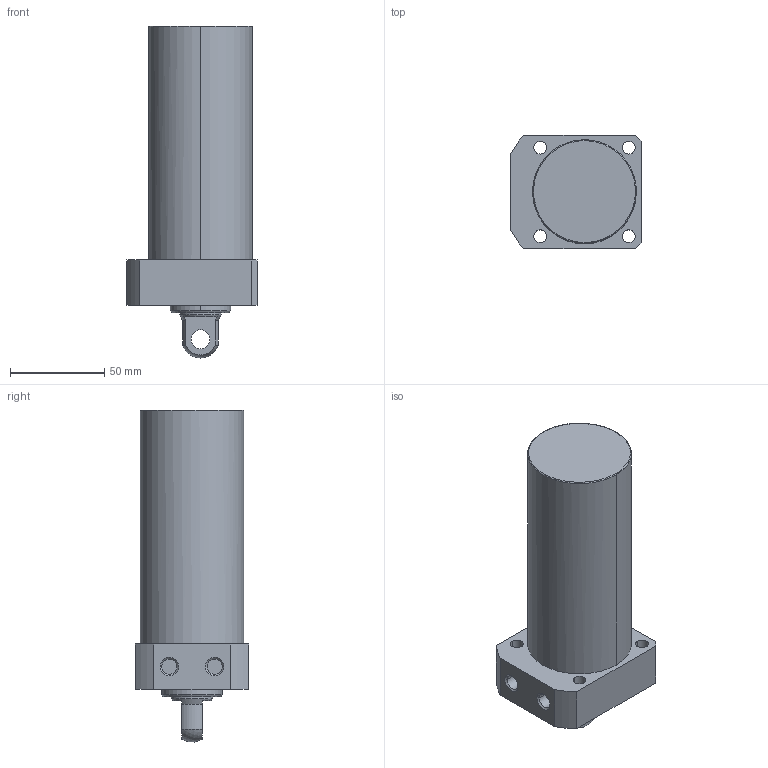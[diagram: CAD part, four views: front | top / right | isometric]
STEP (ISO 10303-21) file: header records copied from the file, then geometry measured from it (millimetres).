
FILE_DESCRIPTION((' '),'2;1');
FILE_NAME( 'TLLR-055CP-095.STEP.stp', '2025-10-24T16:34:51', (' '), ('--- Datakit www.datakit.com---'), ' Datakit CrossCadWare V2024.1 Dec 21 2023', 'Mastercam 2025', ' ');
FILE_SCHEMA(('AUTOMOTIVE_DESIGN { 1 0 10303 214 1 1 1 1 }'));
Length unit declared in the file: millimetre
Products named in the file (1): TLLR-055CP-095
Bounding box: 69 x 60 x 175.93 mm (x, y, z)
Volume: 394126.7 mm3; surface area: 39643.7 mm2
Topology: 1 solids, 1 shells, 57 faces, 164 edges, 116 vertices
Faces by surface type: cylinder 28, plane 18, cone 8, torus 2, sphere 1
Entity records: 2006 total; most frequent: DIRECTION 378, CARTESIAN_POINT 350, ORIENTED_EDGE 328, EDGE_CURVE 164, AXIS2_PLACEMENT_3D 160, VERTEX_POINT 116, CIRCLE 102, EDGE_LOOP 74
